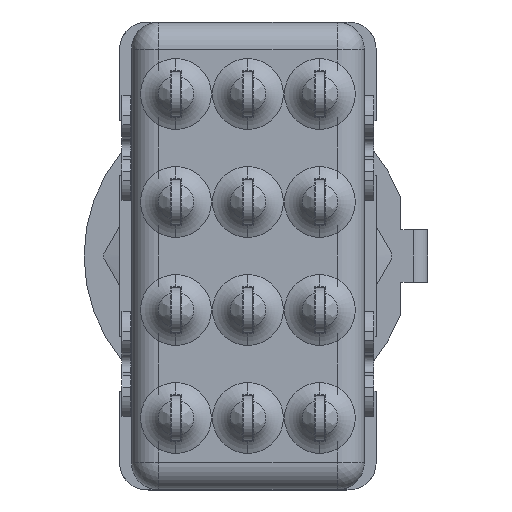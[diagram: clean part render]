
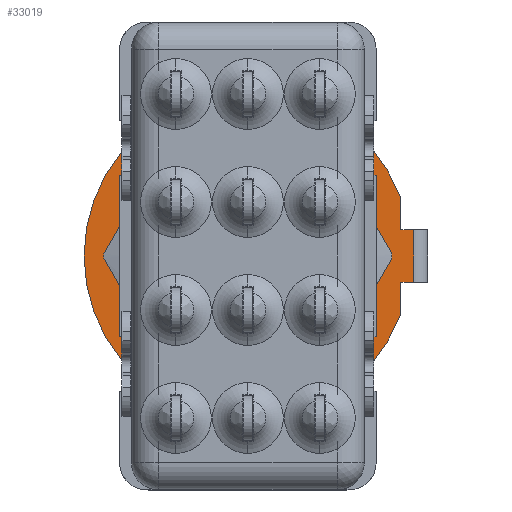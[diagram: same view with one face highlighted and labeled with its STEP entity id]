
A CAD part, front view. The second image highlights one B-rep face of the part: STEP entity #33019.
In plain terms, the highlighted planar face has unit normal (0, -1, 0).
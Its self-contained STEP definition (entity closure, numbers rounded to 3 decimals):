
#10182=DIRECTION('',(0.,0.,1.));
#10183=VECTOR('',#10182,2.9);
#10184=CARTESIAN_POINT('',(9.2,18.9,-1.45));
#10185=LINE('',#10184,#10183);
#10186=DIRECTION('',(1.,0.,0.));
#10187=VECTOR('',#10186,0.7);
#10188=CARTESIAN_POINT('',(8.5,18.9,-1.45));
#10189=LINE('',#10188,#10187);
#10190=DIRECTION('',(0.,0.,1.));
#10191=VECTOR('',#10190,1.8);
#10192=CARTESIAN_POINT('',(8.5,18.9,-3.25));
#10193=LINE('',#10192,#10191);
#10194=CARTESIAN_POINT('',(0.,18.9,0.));
#10195=DIRECTION('',(0.,-1.,0.));
#10196=DIRECTION('',(0.934,0.,0.357));
#10197=AXIS2_PLACEMENT_3D('',#10194,#10195,#10196);
#10199=DIRECTION('',(0.,0.,1.));
#10200=VECTOR('',#10199,1.8);
#10201=CARTESIAN_POINT('',(8.5,18.9,1.45));
#10202=LINE('',#10201,#10200);
#10203=DIRECTION('',(-1.,0.,0.));
#10204=VECTOR('',#10203,0.7);
#10205=CARTESIAN_POINT('',(9.2,18.9,1.45));
#10206=LINE('',#10205,#10204);
#10207=DIRECTION('',(0.5,0.,0.866));
#10208=VECTOR('',#10207,0.014);
#10209=CARTESIAN_POINT('',(-6.066,18.9,3.494));
#10210=LINE('',#10209,#10208);
#10211=CARTESIAN_POINT('',(0.,18.9,0.));
#10212=DIRECTION('',(0.,1.,0.));
#10213=DIRECTION('',(-0.867,0.,-0.499));
#10214=AXIS2_PLACEMENT_3D('',#10211,#10212,#10213);
#10216=DIRECTION('',(-0.5,0.,0.866));
#10217=VECTOR('',#10216,0.014);
#10218=CARTESIAN_POINT('',(-6.059,18.9,-3.506));
#10219=LINE('',#10218,#10217);
#10220=CARTESIAN_POINT('',(0.,18.9,0.));
#10221=DIRECTION('',(0.,1.,0.));
#10222=DIRECTION('',(-0.001,0.,-1.));
#10223=AXIS2_PLACEMENT_3D('',#10220,#10221,#10222);
#10225=DIRECTION('',(-1.,0.,0.));
#10226=VECTOR('',#10225,0.014);
#10227=CARTESIAN_POINT('',(0.007,18.9,-7.));
#10228=LINE('',#10227,#10226);
#10229=CARTESIAN_POINT('',(0.,18.9,0.));
#10230=DIRECTION('',(0.,1.,0.));
#10231=DIRECTION('',(0.866,0.,-0.501));
#10232=AXIS2_PLACEMENT_3D('',#10229,#10230,#10231);
#10234=DIRECTION('',(-0.5,0.,-0.866));
#10235=VECTOR('',#10234,0.014);
#10236=CARTESIAN_POINT('',(6.066,18.9,-3.494));
#10237=LINE('',#10236,#10235);
#10238=CARTESIAN_POINT('',(0.,18.9,0.));
#10239=DIRECTION('',(0.,1.,0.));
#10240=DIRECTION('',(0.867,0.,0.499));
#10241=AXIS2_PLACEMENT_3D('',#10238,#10239,#10240);
#10243=DIRECTION('',(0.5,0.,-0.866));
#10244=VECTOR('',#10243,0.014);
#10245=CARTESIAN_POINT('',(6.059,18.9,3.506));
#10246=LINE('',#10245,#10244);
#10247=CARTESIAN_POINT('',(0.,18.9,0.));
#10248=DIRECTION('',(0.,1.,0.));
#10249=DIRECTION('',(0.001,0.,1.));
#10250=AXIS2_PLACEMENT_3D('',#10247,#10248,#10249);
#10252=DIRECTION('',(1.,0.,0.));
#10253=VECTOR('',#10252,0.014);
#10254=CARTESIAN_POINT('',(-0.007,18.9,7.));
#10255=LINE('',#10254,#10253);
#10256=CARTESIAN_POINT('',(0.,18.9,0.));
#10257=DIRECTION('',(0.,1.,0.));
#10258=DIRECTION('',(-0.866,0.,0.501));
#10259=AXIS2_PLACEMENT_3D('',#10256,#10257,#10258);
#20567=CARTESIAN_POINT('',(8.5,18.9,-3.25));
#20568=CARTESIAN_POINT('',(8.5,18.9,-1.45));
#20569=VERTEX_POINT('',#20567);
#20570=VERTEX_POINT('',#20568);
#20571=CARTESIAN_POINT('',(8.5,18.9,1.45));
#20572=CARTESIAN_POINT('',(8.5,18.9,3.25));
#20573=VERTEX_POINT('',#20571);
#20574=VERTEX_POINT('',#20572);
#20591=CARTESIAN_POINT('',(9.2,18.9,1.45));
#20593=VERTEX_POINT('',#20591);
#20597=CARTESIAN_POINT('',(9.2,18.9,-1.45));
#20598=VERTEX_POINT('',#20597);
#20810=CARTESIAN_POINT('',(-6.066,18.9,3.494));
#20811=CARTESIAN_POINT('',(-6.059,18.9,3.506));
#20812=VERTEX_POINT('',#20810);
#20813=VERTEX_POINT('',#20811);
#20814=CARTESIAN_POINT('',(-0.007,18.9,7.));
#20815=CARTESIAN_POINT('',(0.007,18.9,7.));
#20816=VERTEX_POINT('',#20814);
#20817=VERTEX_POINT('',#20815);
#20818=CARTESIAN_POINT('',(6.059,18.9,3.506));
#20819=CARTESIAN_POINT('',(6.066,18.9,3.494));
#20820=VERTEX_POINT('',#20818);
#20821=VERTEX_POINT('',#20819);
#20822=CARTESIAN_POINT('',(6.066,18.9,-3.494));
#20823=CARTESIAN_POINT('',(6.059,18.9,-3.506));
#20824=VERTEX_POINT('',#20822);
#20825=VERTEX_POINT('',#20823);
#20826=CARTESIAN_POINT('',(0.007,18.9,-7.));
#20827=CARTESIAN_POINT('',(-0.007,18.9,-7.));
#20828=VERTEX_POINT('',#20826);
#20829=VERTEX_POINT('',#20827);
#20830=CARTESIAN_POINT('',(-6.059,18.9,-3.506));
#20831=CARTESIAN_POINT('',(-6.066,18.9,-3.494));
#20832=VERTEX_POINT('',#20830);
#20833=VERTEX_POINT('',#20831);
#32975=CARTESIAN_POINT('',(0.,18.9,0.));
#32976=DIRECTION('',(0.,-1.,0.));
#32977=DIRECTION('',(0.,0.,-1.));
#32978=AXIS2_PLACEMENT_3D('',#32975,#32976,#32977);
#32979=PLANE('',#32978);
#32981=ORIENTED_EDGE('',*,*,#32980,.F.);
#32983=ORIENTED_EDGE('',*,*,#32982,.F.);
#32985=ORIENTED_EDGE('',*,*,#32984,.F.);
#32987=ORIENTED_EDGE('',*,*,#32986,.F.);
#32989=ORIENTED_EDGE('',*,*,#32988,.F.);
#32991=ORIENTED_EDGE('',*,*,#32990,.F.);
#32992=EDGE_LOOP('',(#32981,#32983,#32985,#32987,#32989,#32991));
#32993=FACE_OUTER_BOUND('',#32992,.F.);
#32995=ORIENTED_EDGE('',*,*,#32994,.F.);
#32997=ORIENTED_EDGE('',*,*,#32996,.F.);
#32999=ORIENTED_EDGE('',*,*,#32998,.F.);
#33001=ORIENTED_EDGE('',*,*,#33000,.F.);
#33003=ORIENTED_EDGE('',*,*,#33002,.F.);
#33005=ORIENTED_EDGE('',*,*,#33004,.F.);
#33007=ORIENTED_EDGE('',*,*,#33006,.F.);
#33009=ORIENTED_EDGE('',*,*,#33008,.F.);
#33010=ORIENTED_EDGE('',*,*,#32959,.F.);
#33012=ORIENTED_EDGE('',*,*,#33011,.F.);
#33014=ORIENTED_EDGE('',*,*,#33013,.F.);
#33016=ORIENTED_EDGE('',*,*,#33015,.F.);
#33017=EDGE_LOOP('',(#32995,#32997,#32999,#33001,#33003,#33005,#33007,#33009,
#33010,#33012,#33014,#33016));
#33018=FACE_BOUND('',#33017,.F.);
#33019=ADVANCED_FACE('',(#32993,#33018),#32979,.T.);
#10198=CIRCLE('',#10197,9.1);
#10215=CIRCLE('',#10214,7.);
#10224=CIRCLE('',#10223,7.);
#10233=CIRCLE('',#10232,7.);
#10242=CIRCLE('',#10241,7.);
#10251=CIRCLE('',#10250,7.);
#10260=CIRCLE('',#10259,7.);
#32959=EDGE_CURVE('',#20820,#20821,#10246,.T.);
#32980=EDGE_CURVE('',#20598,#20593,#10185,.T.);
#32982=EDGE_CURVE('',#20570,#20598,#10189,.T.);
#32984=EDGE_CURVE('',#20569,#20570,#10193,.T.);
#32986=EDGE_CURVE('',#20574,#20569,#10198,.T.);
#32988=EDGE_CURVE('',#20573,#20574,#10202,.T.);
#32990=EDGE_CURVE('',#20593,#20573,#10206,.T.);
#32994=EDGE_CURVE('',#20812,#20813,#10210,.T.);
#32996=EDGE_CURVE('',#20833,#20812,#10215,.T.);
#32998=EDGE_CURVE('',#20832,#20833,#10219,.T.);
#33000=EDGE_CURVE('',#20829,#20832,#10224,.T.);
#33002=EDGE_CURVE('',#20828,#20829,#10228,.T.);
#33004=EDGE_CURVE('',#20825,#20828,#10233,.T.);
#33006=EDGE_CURVE('',#20824,#20825,#10237,.T.);
#33008=EDGE_CURVE('',#20821,#20824,#10242,.T.);
#33011=EDGE_CURVE('',#20817,#20820,#10251,.T.);
#33013=EDGE_CURVE('',#20816,#20817,#10255,.T.);
#33015=EDGE_CURVE('',#20813,#20816,#10260,.T.);
